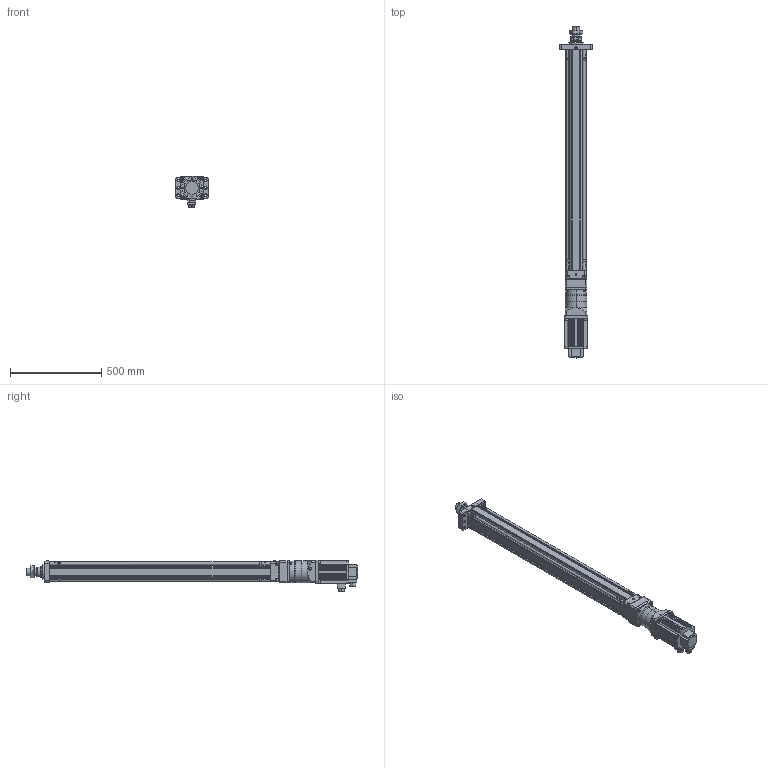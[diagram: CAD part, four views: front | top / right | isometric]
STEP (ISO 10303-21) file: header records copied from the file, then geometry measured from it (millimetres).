
FILE_DESCRIPTION((''),'2;1');
FILE_NAME('HEB100-100-D_ASM','2020-09-05T',('ASUS20200'),(''),'CREO PARAMETRIC BY PTC INC, 2014190','CREO PARAMETRIC BY PTC INC, 2014190','');
FILE_SCHEMA(('CONFIG_CONTROL_DESIGN'));
Length unit declared in the file: millimetre
Products named in the file (33): HEB100-D-P-001-X1; HEB100-D-P-002-X1; HEB100-D-P-008-X1; HEB100-D-P-003-X1; TD-12; SLM-01; YZ-M6X1; HEB100-D-P-004-X1; HEB100-D-P-005-X1; LM-M42X2; M12X45; M12X60; HEB100-100-D-P_ASM; HEB100-D-010-X1-PLF160N; __-__30; __2_1_; __-__16; PLFK120___ASM; PLFK120__ASM; 130_; 130___; 130__2_1; 130___15_2500; 130___1; __2; __1; 130____-769_ASM; 130____-6072; SMA-382K25-FJ_1_ASM; SMA-382K25-FJ_ASM; TD-8; M8X35; HEB100-100-D_ASM
Assembly tree (62 placements, depth 5):
  HEB100-100-D_ASM
    HEB100-100-D-P_ASM
      HEB100-D-P-001-X1
      HEB100-D-P-002-X1
      HEB100-D-P-008-X1  x4
      HEB100-D-P-003-X1
      TD-12  x8
      SLM-01
      YZ-M6X1
      HEB100-D-P-004-X1
      HEB100-D-P-005-X1
      LM-M42X2
      M12X45  x4
      M12X60  x4
    HEB100-D-010-X1-PLF160N
    PLFK120__ASM
      PLFK120___ASM
        __-__30
        __2_1_
        __-__16
    SMA-382K25-FJ_ASM
      SMA-382K25-FJ_1_ASM
        130_
        130___
        130__2_1
        130___15_2500
        130___1
        130____-769_ASM
          __2
          __1
        130____-6072
    TD-8  x8
    M8X35  x8
Bounding box: 180 x 1820 x 174.73 mm (x, y, z)
Volume: 9989756.9 mm3; surface area: 2454619.6 mm2
Topology: 56 solids, 82 shells, 2510 faces, 6080 edges, 3852 vertices
Faces by surface type: plane 1136, cylinder 786, cone 448, torus 132, extrusion 4, bspline 2, sphere 2
Entity records: 59142 total; most frequent: CARTESIAN_POINT 11310, DIRECTION 10403, ORIENTED_EDGE 9360, EDGE_CURVE 4720, AXIS2_PLACEMENT_3D 3865, VERTEX_POINT 3012, VECTOR 2673, LINE 2669
